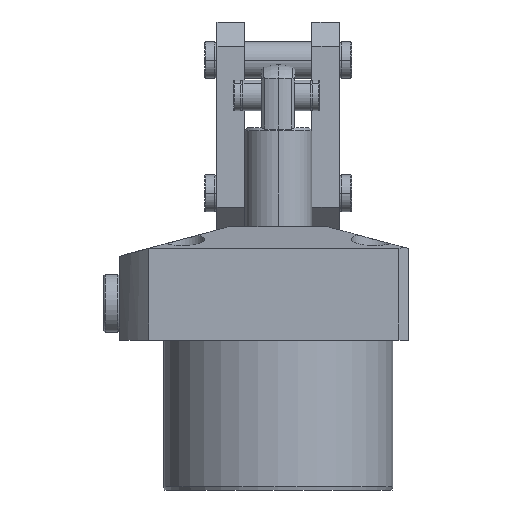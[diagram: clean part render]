
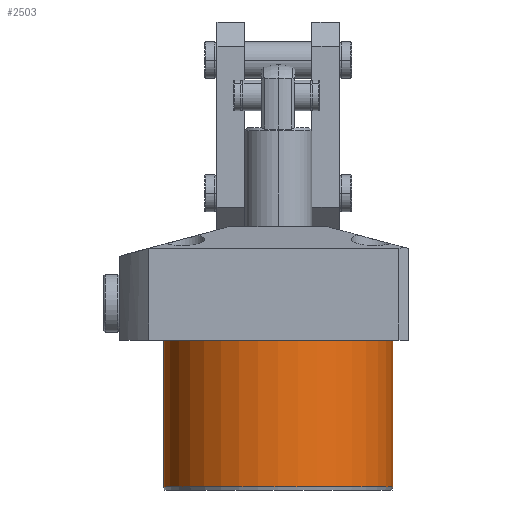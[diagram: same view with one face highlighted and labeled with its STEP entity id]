
A CAD part, front view. The second image highlights one B-rep face of the part: STEP entity #2503.
In plain terms, the highlighted cylindrical face has radius 37.5 mm (diameter 75 mm), a partial arc.
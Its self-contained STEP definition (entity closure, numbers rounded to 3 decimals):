
#232 = ORIENTED_EDGE ( 'NONE', *, *, #7100, .T. ) ;
#357 = VERTEX_POINT ( 'NONE', #12807 ) ;
#380 = EDGE_CURVE ( 'NONE', #15006, #357, #5364, .T. ) ;
#461 = VERTEX_POINT ( 'NONE', #9410 ) ;
#2186 = ORIENTED_EDGE ( 'NONE', *, *, #9353, .T. ) ;
#2225 = VECTOR ( 'NONE', #3884, 1000. ) ;
#2503 = ADVANCED_FACE ( 'NONE', ( #15928 ), #8716, .T. ) ;
#3047 = AXIS2_PLACEMENT_3D ( 'NONE', #14435, #7960, #10587 ) ;
#3728 = LINE ( 'NONE', #15489, #10742 ) ;
#3884 = DIRECTION ( 'NONE',  ( 0., 0., 1. ) ) ;
#4667 = ORIENTED_EDGE ( 'NONE', *, *, #9357, .F. ) ;
#4850 = CARTESIAN_POINT ( 'NONE',  ( 0., 0., -48. ) ) ;
#5014 = DIRECTION ( 'NONE',  ( -1., 0., 0. ) ) ;
#5364 = CIRCLE ( 'NONE', #9163, 37.5 ) ;
#6540 = CARTESIAN_POINT ( 'NONE',  ( 0., 0., 0. ) ) ;
#7100 = EDGE_CURVE ( 'NONE', #357, #461, #3728, .T. ) ;
#7762 = DIRECTION ( 'NONE',  ( 0., 0., 1. ) ) ;
#7783 = DIRECTION ( 'NONE',  ( 0., 0., 1. ) ) ;
#7911 = DIRECTION ( 'NONE',  ( 1., 0., 0. ) ) ;
#7960 = DIRECTION ( 'NONE',  ( 0., 0., 1. ) ) ;
#8716 = CYLINDRICAL_SURFACE ( 'NONE', #3047, 37.5 ) ;
#8913 = LINE ( 'NONE', #13053, #2225 ) ;
#9022 = CARTESIAN_POINT ( 'NONE',  ( -37.5, 0., -48. ) ) ;
#9163 = AXIS2_PLACEMENT_3D ( 'NONE', #4850, #7783, #5014 ) ;
#9319 = CIRCLE ( 'NONE', #13814, 37.5 ) ;
#9353 = EDGE_CURVE ( 'NONE', #461, #10108, #9319, .T. ) ;
#9357 = EDGE_CURVE ( 'NONE', #15006, #10108, #8913, .T. ) ;
#9410 = CARTESIAN_POINT ( 'NONE',  ( 37.5, 0., 0. ) ) ;
#10108 = VERTEX_POINT ( 'NONE', #11296 ) ;
#10587 = DIRECTION ( 'NONE',  ( 1., 0., 0. ) ) ;
#10742 = VECTOR ( 'NONE', #7762, 1000. ) ;
#11283 = EDGE_LOOP ( 'NONE', ( #4667, #15442, #232, #2186 ) ) ;
#11296 = CARTESIAN_POINT ( 'NONE',  ( -37.5, 0., 0. ) ) ;
#12807 = CARTESIAN_POINT ( 'NONE',  ( 37.5, 0., -48. ) ) ;
#13053 = CARTESIAN_POINT ( 'NONE',  ( -37.5, 0., -49. ) ) ;
#13814 = AXIS2_PLACEMENT_3D ( 'NONE', #6540, #15639, #7911 ) ;
#14435 = CARTESIAN_POINT ( 'NONE',  ( 0., 0., -49. ) ) ;
#15006 = VERTEX_POINT ( 'NONE', #9022 ) ;
#15442 = ORIENTED_EDGE ( 'NONE', *, *, #380, .T. ) ;
#15489 = CARTESIAN_POINT ( 'NONE',  ( 37.5, 0., -49. ) ) ;
#15639 = DIRECTION ( 'NONE',  ( 0., 0., -1. ) ) ;
#15928 = FACE_OUTER_BOUND ( 'NONE', #11283, .T. ) ;
